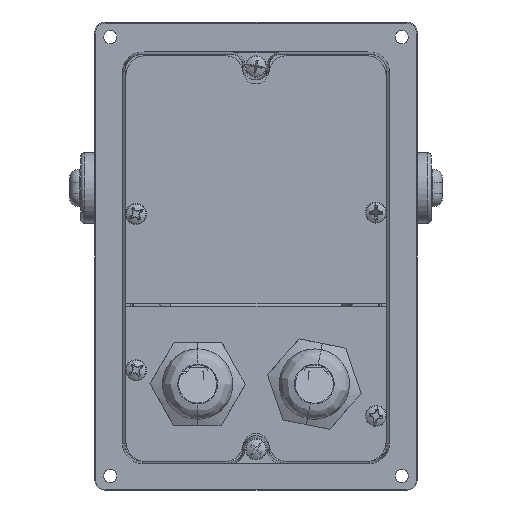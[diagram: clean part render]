
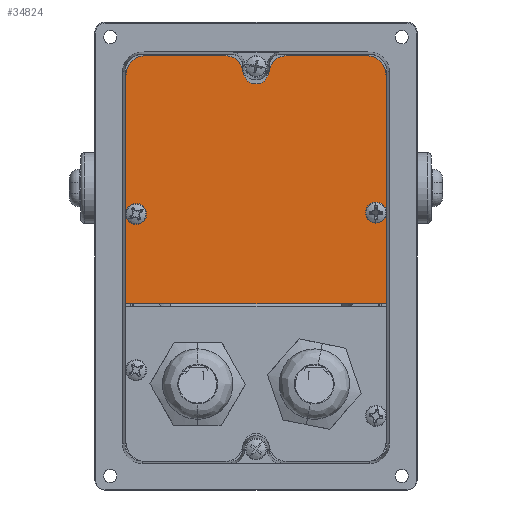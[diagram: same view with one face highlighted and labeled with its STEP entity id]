
A CAD part, front view. The second image highlights one B-rep face of the part: STEP entity #34824.
In plain terms, the highlighted planar face has unit normal (0, -1, 0).
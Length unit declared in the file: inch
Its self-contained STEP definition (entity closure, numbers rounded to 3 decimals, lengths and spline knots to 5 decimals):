
#860 = ORIENTED_EDGE ( 'NONE', *, *, #10179, .T. ) ;
#1068 = DIRECTION ( 'NONE',  ( -1., 0., 0. ) ) ;
#1417 = CIRCLE ( 'NONE', #1473, 0.09 ) ;
#1448 = CARTESIAN_POINT ( 'NONE',  ( -0.39017, -1.86, 1.482 ) ) ;
#1473 = AXIS2_PLACEMENT_3D ( 'NONE', #10588, #22262, #33880 ) ;
#1537 = CARTESIAN_POINT ( 'NONE',  ( 0.16209, -1.86, 1.46798 ) ) ;
#1797 = CIRCLE ( 'NONE', #1825, 0.09 ) ;
#1808 = VERTEX_POINT ( 'NONE', #1817 ) ;
#1817 = CARTESIAN_POINT ( 'NONE',  ( -1.6725, -1.86, 1.4505 ) ) ;
#1825 = AXIS2_PLACEMENT_3D ( 'NONE', #29903, #3883, #15257 ) ;
#2346 = DIRECTION ( 'NONE',  ( 1., 0., 0. ) ) ;
#2652 = EDGE_CURVE ( 'NONE', #13210, #32257, #26313, .T. ) ;
#2794 = VERTEX_POINT ( 'NONE', #11197 ) ;
#3135 = VERTEX_POINT ( 'NONE', #33893 ) ;
#3313 = EDGE_CURVE ( 'NONE', #2794, #17414, #29431, .T. ) ;
#3390 = CARTESIAN_POINT ( 'NONE',  ( -1.633, -1.86, -0.3345 ) ) ;
#3404 = CARTESIAN_POINT ( 'NONE',  ( -0.16209, -1.86, 1.46798 ) ) ;
#3466 = CARTESIAN_POINT ( 'NONE',  ( -1.4225, -1.86, 1.4505 ) ) ;
#3635 = DIRECTION ( 'NONE',  ( -0.233, 0., -0.972 ) ) ;
#3883 = DIRECTION ( 'NONE',  ( 0., -1., 0. ) ) ;
#4371 = DIRECTION ( 'NONE',  ( 0., -1., 0. ) ) ;
#5054 = ORIENTED_EDGE ( 'NONE', *, *, #7907, .T. ) ;
#5468 = EDGE_LOOP ( 'NONE', ( #22149, #16562, #11031, #8282, #31719, #34852, #860, #35391, #27889, #13217, #5054, #19526 ) ) ;
#5586 = LINE ( 'NONE', #17024, #33354 ) ;
#5863 = EDGE_CURVE ( 'NONE', #28726, #10420, #1417, .T. ) ;
#6224 = FACE_OUTER_BOUND ( 'NONE', #5468, .T. ) ;
#6321 = AXIS2_PLACEMENT_3D ( 'NONE', #15220, #26990, #1068 ) ;
#6350 = CIRCLE ( 'NONE', #6321, 0.09 ) ;
#6554 = DIRECTION ( 'NONE',  ( 0., 1., 0. ) ) ;
#6692 = DIRECTION ( 'NONE',  ( -1., 0., 0. ) ) ;
#7551 = ORIENTED_EDGE ( 'NONE', *, *, #5863, .F. ) ;
#7907 = EDGE_CURVE ( 'NONE', #17414, #27662, #9486, .T. ) ;
#8282 = ORIENTED_EDGE ( 'NONE', *, *, #23360, .T. ) ;
#8721 = LINE ( 'NONE', #20289, #15484 ) ;
#8832 = CARTESIAN_POINT ( 'NONE',  ( -1.6725, -1.86, -1.4875 ) ) ;
#9169 = DIRECTION ( 'NONE',  ( -1., 0., 0. ) ) ;
#9342 = VECTOR ( 'NONE', #3635, 39.37008 ) ;
#9397 = VERTEX_POINT ( 'NONE', #28101 ) ;
#9486 = CIRCLE ( 'NONE', #25431, 0.2185 ) ;
#9920 = DIRECTION ( 'NONE',  ( -1., 0., 0. ) ) ;
#10179 = EDGE_CURVE ( 'NONE', #22740, #9397, #35377, .T. ) ;
#10420 = VERTEX_POINT ( 'NONE', #29438 ) ;
#10588 = CARTESIAN_POINT ( 'NONE',  ( -1.543, -1.86, -0.3345 ) ) ;
#10712 = DIRECTION ( 'NONE',  ( -1., 0., 0. ) ) ;
#11031 = ORIENTED_EDGE ( 'NONE', *, *, #35042, .T. ) ;
#11197 = CARTESIAN_POINT ( 'NONE',  ( -0.16209, -1.86, 1.46798 ) ) ;
#12050 = EDGE_CURVE ( 'NONE', #32257, #13210, #1797, .T. ) ;
#12707 = DIRECTION ( 'NONE',  ( 0., -1., 0. ) ) ;
#13069 = VERTEX_POINT ( 'NONE', #1537 ) ;
#13210 = VERTEX_POINT ( 'NONE', #13948 ) ;
#13217 = ORIENTED_EDGE ( 'NONE', *, *, #3313, .T. ) ;
#13655 = EDGE_CURVE ( 'NONE', #9397, #13069, #17855, .T. ) ;
#13670 = VECTOR ( 'NONE', #20405, 39.37008 ) ;
#13859 = VERTEX_POINT ( 'NONE', #16879 ) ;
#13948 = CARTESIAN_POINT ( 'NONE',  ( 1.453, -1.86, -0.3175 ) ) ;
#14003 = VECTOR ( 'NONE', #2346, 39.37008 ) ;
#14522 = EDGE_CURVE ( 'NONE', #1808, #13859, #34861, .T. ) ;
#14769 = DIRECTION ( 'NONE',  ( -0.233, 0., 0.972 ) ) ;
#14834 = DIRECTION ( 'NONE',  ( 0., -1., 0. ) ) ;
#15220 = CARTESIAN_POINT ( 'NONE',  ( -1.543, -1.86, -0.3345 ) ) ;
#15226 = CARTESIAN_POINT ( 'NONE',  ( 1.4225, -1.86, 1.7005 ) ) ;
#15257 = DIRECTION ( 'NONE',  ( -1., 0., 0. ) ) ;
#15484 = VECTOR ( 'NONE', #31975, 39.37008 ) ;
#15753 = DIRECTION ( 'NONE',  ( -1., 0., 0. ) ) ;
#16005 = AXIS2_PLACEMENT_3D ( 'NONE', #21070, #32721, #6692 ) ;
#16006 = CIRCLE ( 'NONE', #16005, 0.25 ) ;
#16511 = LINE ( 'NONE', #28314, #14003 ) ;
#16562 = ORIENTED_EDGE ( 'NONE', *, *, #14522, .T. ) ;
#16857 = ORIENTED_EDGE ( 'NONE', *, *, #2652, .F. ) ;
#16879 = CARTESIAN_POINT ( 'NONE',  ( -1.6725, -1.86, -1.4875 ) ) ;
#17024 = CARTESIAN_POINT ( 'NONE',  ( -1.4225, -1.86, 1.7005 ) ) ;
#17400 = EDGE_CURVE ( 'NONE', #13069, #2794, #27186, .T. ) ;
#17414 = VERTEX_POINT ( 'NONE', #26933 ) ;
#17690 = FACE_BOUND ( 'NONE', #22669, .T. ) ;
#17855 = LINE ( 'NONE', #29649, #9342 ) ;
#18014 = AXIS2_PLACEMENT_3D ( 'NONE', #30388, #4371, #15753 ) ;
#18035 = CIRCLE ( 'NONE', #18014, 0.25 ) ;
#18036 = DIRECTION ( 'NONE',  ( -1., 0., 0. ) ) ;
#18205 = AXIS2_PLACEMENT_3D ( 'NONE', #3466, #14834, #26583 ) ;
#19096 = CARTESIAN_POINT ( 'NONE',  ( 1.6725, -1.86, 1.4505 ) ) ;
#19526 = ORIENTED_EDGE ( 'NONE', *, *, #32983, .T. ) ;
#20289 = CARTESIAN_POINT ( 'NONE',  ( 1.6725, -1.86, -1.4875 ) ) ;
#20405 = DIRECTION ( 'NONE',  ( 0., 0., -1. ) ) ;
#20468 = CARTESIAN_POINT ( 'NONE',  ( -0.39017, -1.86, 1.7005 ) ) ;
#20542 = CARTESIAN_POINT ( 'NONE',  ( 0.39017, -1.86, 1.7005 ) ) ;
#21070 = CARTESIAN_POINT ( 'NONE',  ( -1.4225, -1.86, 1.4505 ) ) ;
#22149 = ORIENTED_EDGE ( 'NONE', *, *, #23184, .T. ) ;
#22262 = DIRECTION ( 'NONE',  ( 0., -1., 0. ) ) ;
#22560 = EDGE_CURVE ( 'NONE', #33197, #29321, #18035, .T. ) ;
#22669 = EDGE_LOOP ( 'NONE', ( #16857, #25918 ) ) ;
#22740 = VERTEX_POINT ( 'NONE', #20542 ) ;
#23184 = EDGE_CURVE ( 'NONE', #24310, #1808, #16006, .T. ) ;
#23360 = EDGE_CURVE ( 'NONE', #3135, #33197, #8721, .T. ) ;
#23659 = CARTESIAN_POINT ( 'NONE',  ( 0.39017, -1.86, 1.482 ) ) ;
#24232 = VECTOR ( 'NONE', #14769, 39.37008 ) ;
#24310 = VERTEX_POINT ( 'NONE', #26339 ) ;
#24457 = DIRECTION ( 'NONE',  ( 1., 0., 0. ) ) ;
#24466 = CARTESIAN_POINT ( 'NONE',  ( 1.543, -1.86, -0.3175 ) ) ;
#25292 = LINE ( 'NONE', #36778, #37236 ) ;
#25431 = AXIS2_PLACEMENT_3D ( 'NONE', #1448, #12707, #24457 ) ;
#25918 = ORIENTED_EDGE ( 'NONE', *, *, #12050, .F. ) ;
#26309 = AXIS2_PLACEMENT_3D ( 'NONE', #24466, #35967, #9920 ) ;
#26313 = CIRCLE ( 'NONE', #26309, 0.09 ) ;
#26339 = CARTESIAN_POINT ( 'NONE',  ( -1.4225, -1.86, 1.7005 ) ) ;
#26583 = DIRECTION ( 'NONE',  ( -1., 0., 0. ) ) ;
#26607 = EDGE_CURVE ( 'NONE', #10420, #28726, #6350, .T. ) ;
#26933 = CARTESIAN_POINT ( 'NONE',  ( -0.1777, -1.86, 1.53301 ) ) ;
#26990 = DIRECTION ( 'NONE',  ( 0., -1., 0. ) ) ;
#27186 = CIRCLE ( 'NONE', #27191, 0.1667 ) ;
#27191 = AXIS2_PLACEMENT_3D ( 'NONE', #32580, #6554, #18036 ) ;
#27662 = VERTEX_POINT ( 'NONE', #20468 ) ;
#27789 = ORIENTED_EDGE ( 'NONE', *, *, #26607, .F. ) ;
#27889 = ORIENTED_EDGE ( 'NONE', *, *, #17400, .T. ) ;
#28101 = CARTESIAN_POINT ( 'NONE',  ( 0.1777, -1.86, 1.53301 ) ) ;
#28314 = CARTESIAN_POINT ( 'NONE',  ( 1.6725, -1.86, -1.4875 ) ) ;
#28726 = VERTEX_POINT ( 'NONE', #3390 ) ;
#28830 = DIRECTION ( 'NONE',  ( -1., 0., 0. ) ) ;
#29230 = CARTESIAN_POINT ( 'NONE',  ( 1.633, -1.86, -0.3175 ) ) ;
#29321 = VERTEX_POINT ( 'NONE', #15226 ) ;
#29431 = LINE ( 'NONE', #3404, #24232 ) ;
#29438 = CARTESIAN_POINT ( 'NONE',  ( -1.453, -1.86, -0.3345 ) ) ;
#29492 = PLANE ( 'NONE',  #18205 ) ;
#29649 = CARTESIAN_POINT ( 'NONE',  ( 0.16209, -1.86, 1.46798 ) ) ;
#29903 = CARTESIAN_POINT ( 'NONE',  ( 1.543, -1.86, -0.3175 ) ) ;
#30388 = CARTESIAN_POINT ( 'NONE',  ( 1.4225, -1.86, 1.4505 ) ) ;
#30847 = EDGE_LOOP ( 'NONE', ( #7551, #27789 ) ) ;
#31719 = ORIENTED_EDGE ( 'NONE', *, *, #22560, .T. ) ;
#31975 = DIRECTION ( 'NONE',  ( 0., 0., 1. ) ) ;
#32253 = FACE_BOUND ( 'NONE', #30847, .T. ) ;
#32257 = VERTEX_POINT ( 'NONE', #29230 ) ;
#32580 = CARTESIAN_POINT ( 'NONE',  ( 0., -1.86, 1.5069 ) ) ;
#32721 = DIRECTION ( 'NONE',  ( 0., -1., 0. ) ) ;
#32983 = EDGE_CURVE ( 'NONE', #27662, #24310, #5586, .T. ) ;
#33197 = VERTEX_POINT ( 'NONE', #19096 ) ;
#33260 = EDGE_CURVE ( 'NONE', #29321, #22740, #25292, .T. ) ;
#33354 = VECTOR ( 'NONE', #28830, 39.37008 ) ;
#33880 = DIRECTION ( 'NONE',  ( -1., 0., 0. ) ) ;
#33893 = CARTESIAN_POINT ( 'NONE',  ( 1.6725, -1.86, -1.4875 ) ) ;
#34824 = ADVANCED_FACE ( 'NONE', ( #32253, #6224, #17690 ), #29492, .T. ) ;
#34852 = ORIENTED_EDGE ( 'NONE', *, *, #33260, .T. ) ;
#34861 = LINE ( 'NONE', #8832, #13670 ) ;
#35042 = EDGE_CURVE ( 'NONE', #13859, #3135, #16511, .T. ) ;
#35199 = DIRECTION ( 'NONE',  ( 0., -1., 0. ) ) ;
#35350 = AXIS2_PLACEMENT_3D ( 'NONE', #23659, #35199, #9169 ) ;
#35377 = CIRCLE ( 'NONE', #35350, 0.2185 ) ;
#35391 = ORIENTED_EDGE ( 'NONE', *, *, #13655, .T. ) ;
#35967 = DIRECTION ( 'NONE',  ( 0., -1., 0. ) ) ;
#36778 = CARTESIAN_POINT ( 'NONE',  ( 0.39017, -1.86, 1.7005 ) ) ;
#37236 = VECTOR ( 'NONE', #10712, 39.37008 ) ;
